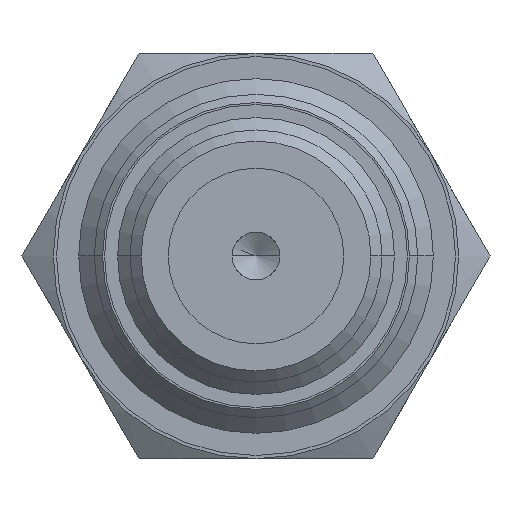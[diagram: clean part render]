
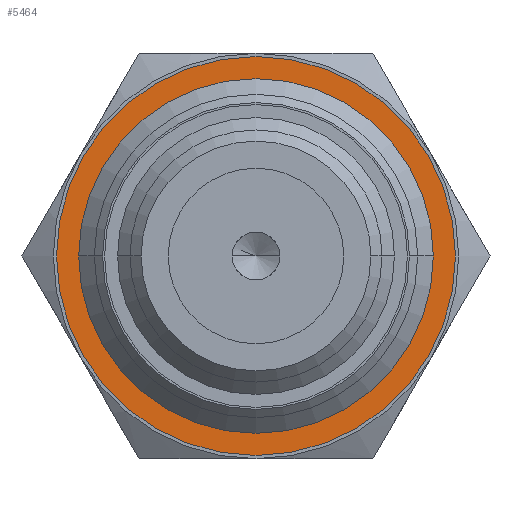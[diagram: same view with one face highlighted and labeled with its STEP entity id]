
A CAD part, front view. The second image highlights one B-rep face of the part: STEP entity #5464.
In plain terms, the highlighted planar face has unit normal (0, -1, 0).
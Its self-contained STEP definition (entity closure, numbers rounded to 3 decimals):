
#2709=CARTESIAN_POINT('',(-10.165,0.,0.));
#2710=CARTESIAN_POINT('',(-10.165,0.,0.005));
#2711=CARTESIAN_POINT('',(-10.165,0.,0.011));
#2712=CARTESIAN_POINT('',(-10.165,0.,0.016));
#2729=CARTESIAN_POINT('',(0.,0.,0.));
#2730=DIRECTION('',(0.,1.,0.));
#2731=DIRECTION('',(-1.,0.,0.));
#2732=AXIS2_PLACEMENT_3D('',#2729,#2730,#2731);
#2734=CARTESIAN_POINT('',(0.,0.,0.));
#2735=DIRECTION('',(0.,1.,0.));
#2736=DIRECTION('',(1.,0.,0.));
#2737=AXIS2_PLACEMENT_3D('',#2734,#2735,#2736);
#2739=CARTESIAN_POINT('',(0.,0.,0.));
#2740=DIRECTION('',(0.,-1.,0.));
#2741=DIRECTION('',(-1.,0.,0.));
#2742=AXIS2_PLACEMENT_3D('',#2739,#2740,#2741);
#2744=CARTESIAN_POINT('',(0.,0.,0.));
#2745=DIRECTION('',(0.,-1.,0.));
#2746=DIRECTION('',(1.,0.,0.));
#2747=AXIS2_PLACEMENT_3D('',#2744,#2745,#2746);
#3063=CARTESIAN_POINT('',(10.165,0.,0.));
#3064=CARTESIAN_POINT('',(10.165,0.,-0.005));
#3065=CARTESIAN_POINT('',(10.165,0.,-0.011));
#3066=CARTESIAN_POINT('',(10.165,0.,-0.016));
#3422=CARTESIAN_POINT('',(10.165,0.,0.));
#3423=CARTESIAN_POINT('',(-10.165,0.,0.016));
#3424=VERTEX_POINT('',#3422);
#3425=VERTEX_POINT('',#3423);
#3426=VERTEX_POINT('',#2709);
#3427=CARTESIAN_POINT('',(-12.5,0.,0.));
#3428=CARTESIAN_POINT('',(12.5,0.,0.));
#3429=VERTEX_POINT('',#3427);
#3430=VERTEX_POINT('',#3428);
#3431=CARTESIAN_POINT('',(10.165,0.,-0.016));
#3432=VERTEX_POINT('',#3431);
#5445=CARTESIAN_POINT('',(0.,0.,0.));
#5446=DIRECTION('',(0.,-1.,0.));
#5447=DIRECTION('',(-1.,0.,0.));
#5448=AXIS2_PLACEMENT_3D('',#5445,#5446,#5447);
#5449=PLANE('',#5448);
#5451=ORIENTED_EDGE('',*,*,#5450,.T.);
#5453=ORIENTED_EDGE('',*,*,#5452,.T.);
#5454=EDGE_LOOP('',(#5451,#5453));
#5455=FACE_OUTER_BOUND('',#5454,.F.);
#5457=ORIENTED_EDGE('',*,*,#5456,.T.);
#5459=ORIENTED_EDGE('',*,*,#5458,.F.);
#5460=ORIENTED_EDGE('',*,*,#5434,.T.);
#5461=ORIENTED_EDGE('',*,*,#5432,.F.);
#5462=EDGE_LOOP('',(#5457,#5459,#5460,#5461));
#5463=FACE_BOUND('',#5462,.F.);
#2713=B_SPLINE_CURVE_WITH_KNOTS('',3,(#2709,#2710,#2711,#2712),.UNSPECIFIED.,
.F.,.F.,(4,4),(0.,1.),.UNSPECIFIED.);
#2733=CIRCLE('',#2732,12.5);
#2738=CIRCLE('',#2737,12.5);
#2743=CIRCLE('',#2742,10.165);
#2748=CIRCLE('',#2747,10.165);
#3067=B_SPLINE_CURVE_WITH_KNOTS('',3,(#3063,#3064,#3065,#3066),.UNSPECIFIED.,
.F.,.F.,(4,4),(0.,1.),.UNSPECIFIED.);
#5432=EDGE_CURVE('',#3426,#3425,#2713,.T.);
#5434=EDGE_CURVE('',#3424,#3425,#2748,.T.);
#5450=EDGE_CURVE('',#3429,#3430,#2733,.T.);
#5452=EDGE_CURVE('',#3430,#3429,#2738,.T.);
#5456=EDGE_CURVE('',#3426,#3432,#2743,.T.);
#5458=EDGE_CURVE('',#3424,#3432,#3067,.T.);
#5464=ADVANCED_FACE('',(#5455,#5463),#5449,.T.);
